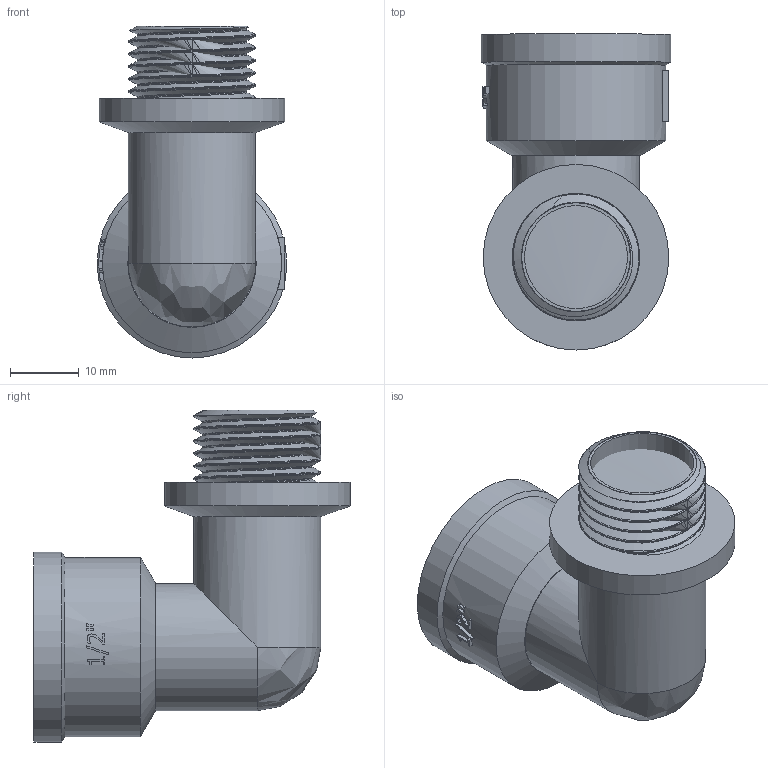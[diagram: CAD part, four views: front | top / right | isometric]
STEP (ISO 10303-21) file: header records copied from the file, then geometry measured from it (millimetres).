
FILE_DESCRIPTION(/* description */ (''),/* implementation_level */ '2;1');
FILE_NAME(/* name */ 'C:\Users\Doom\Desktop\Фадотех\Резьба\U11 18.03.2020\U11 18.03.2020.stp',/* time_stamp */ '2022-01-20T23:27:41+02:00',/* author */ ('Doom'),/* organization */ (''),/* preprocessor_version */ 'ST-DEVELOPER v18',/* originating_system */ 'Autodesk Inventor 2020',/* authorisation */ '');
FILE_SCHEMA (('AUTOMOTIVE_DESIGN { 1 0 10303 214 3 1 1 }'));
Length unit declared in the file: millimetre
Products named in the file (1): U11 18.03.2020
Bounding box: 27.6 x 46 x 48.3 mm (x, y, z)
Volume: 8903.2 mm3; surface area: 13580.2 mm2
Topology: 3 solids, 3 shells, 134 faces, 365 edges, 242 vertices
Faces by surface type: plane 62, cylinder 37, bspline 30, cone 5
Full cylindrical faces by diameter (mm): 15 x3, 15.81 x2, 18.36 x5, 18.5 x9, 21.05 x2, 21.6 x1, 26.1 x1, 27 x1, 27.6 x1
Entity records: 11747 total; most frequent: CARTESIAN_POINT 8509, ORIENTED_EDGE 714, DIRECTION 582, EDGE_CURVE 357, VERTEX_POINT 240, AXIS2_PLACEMENT_3D 218, EDGE_LOOP 151, LINE 146
